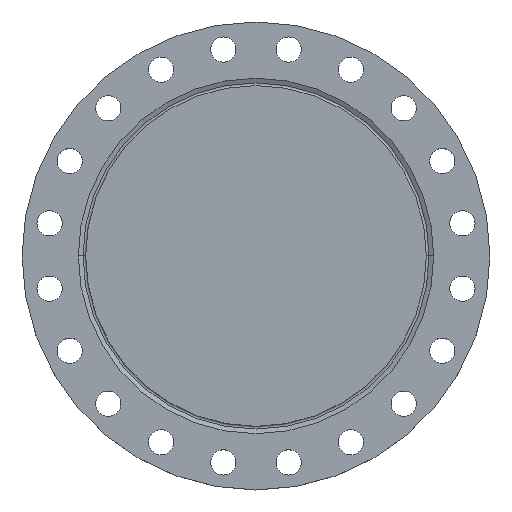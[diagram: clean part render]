
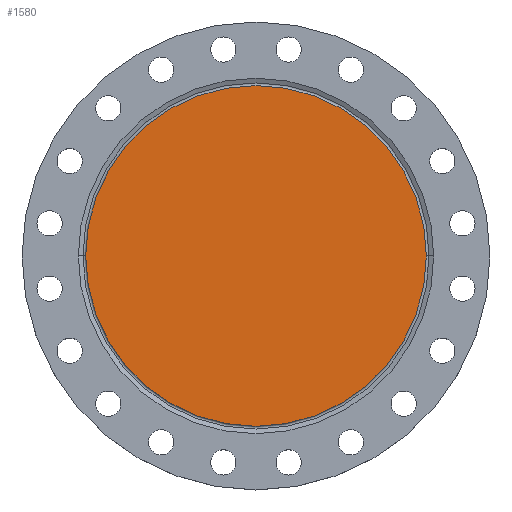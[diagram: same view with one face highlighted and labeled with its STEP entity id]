
A CAD part, top view. The second image highlights one B-rep face of the part: STEP entity #1580.
In plain terms, the highlighted planar face has unit normal (0, 0, 1).
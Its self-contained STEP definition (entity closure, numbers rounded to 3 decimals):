
#177 = CARTESIAN_POINT ( 'NONE',  ( 324., 0., 0. ) ) ;
#196 = EDGE_CURVE ( 'NONE', #1868, #1822, #775, .T. ) ;
#222 = CARTESIAN_POINT ( 'NONE',  ( -324., 0., 0. ) ) ;
#266 = DIRECTION ( 'NONE',  ( -1., 0., 0. ) ) ;
#267 = DIRECTION ( 'NONE',  ( 0., 0., -1. ) ) ;
#268 = CARTESIAN_POINT ( 'NONE',  ( 0., 0., 0. ) ) ;
#452 = DIRECTION ( 'NONE',  ( 1., 0., 0. ) ) ;
#453 = DIRECTION ( 'NONE',  ( 0., 0., 1. ) ) ;
#456 = FACE_OUTER_BOUND ( 'NONE', #1197, .T. ) ;
#457 = PLANE ( 'NONE',  #1566 ) ;
#458 = CARTESIAN_POINT ( 'NONE',  ( 0., 0., 0. ) ) ;
#775 = CIRCLE ( 'NONE', #779, 324. ) ;
#779 = AXIS2_PLACEMENT_3D ( 'NONE', #1101, #1099, #1098 ) ;
#1098 = DIRECTION ( 'NONE',  ( -1., 0., 0. ) ) ;
#1099 = DIRECTION ( 'NONE',  ( 0., 0., -1. ) ) ;
#1101 = CARTESIAN_POINT ( 'NONE',  ( 0., 0., 0. ) ) ;
#1197 = EDGE_LOOP ( 'NONE', ( #1331, #1330 ) ) ;
#1330 = ORIENTED_EDGE ( 'NONE', *, *, #196, .F. ) ;
#1331 = ORIENTED_EDGE ( 'NONE', *, *, #1743, .F. ) ;
#1566 = AXIS2_PLACEMENT_3D ( 'NONE', #458, #453, #452 ) ;
#1580 = ADVANCED_FACE ( 'NONE', ( #456 ), #457, .T. ) ;
#1709 = CIRCLE ( 'NONE', #1895, 324. ) ;
#1743 = EDGE_CURVE ( 'NONE', #1822, #1868, #1709, .T. ) ;
#1822 = VERTEX_POINT ( 'NONE', #222 ) ;
#1868 = VERTEX_POINT ( 'NONE', #177 ) ;
#1895 = AXIS2_PLACEMENT_3D ( 'NONE', #268, #267, #266 ) ;
